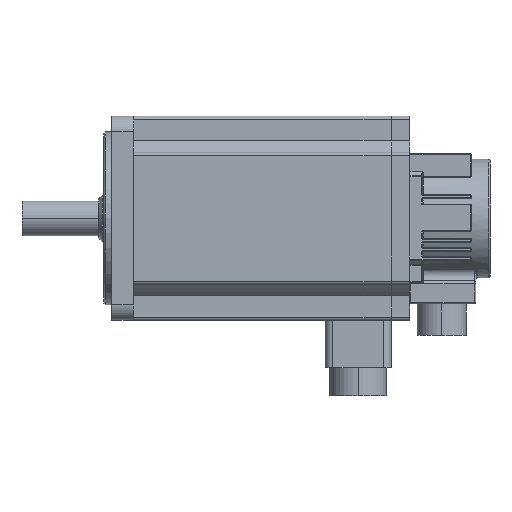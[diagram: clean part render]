
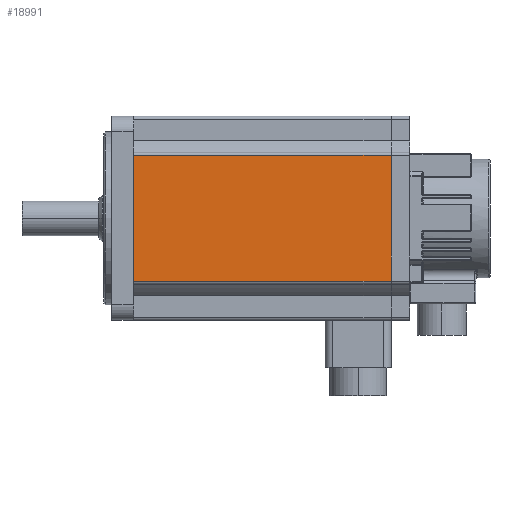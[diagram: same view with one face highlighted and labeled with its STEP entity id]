
A CAD part, left-side view. The second image highlights one B-rep face of the part: STEP entity #18991.
In plain terms, the highlighted planar face has unit normal (-1, 0, 0) as drawn and (0, 0, 1) by its records, which use the part's own axes.
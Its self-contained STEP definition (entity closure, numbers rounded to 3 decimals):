
#604 = CARTESIAN_POINT ( 'NONE',  ( -40., 176., 65. ) ) ;
#1282 = EDGE_CURVE ( 'NONE', #7822, #20956, #21002, .T. ) ;
#1657 = CARTESIAN_POINT ( 'NONE',  ( -40., 176., 65. ) ) ;
#1883 = VERTEX_POINT ( 'NONE', #2233 ) ;
#2009 = DIRECTION ( 'NONE',  ( 0., -1., 0. ) ) ;
#2134 = CARTESIAN_POINT ( 'NONE',  ( 40., 176., 65. ) ) ;
#2205 = EDGE_LOOP ( 'NONE', ( #12621, #22320, #12281, #20350 ) ) ;
#2233 = CARTESIAN_POINT ( 'NONE',  ( 40., 12., 65. ) ) ;
#3858 = VECTOR ( 'NONE', #10271, 1000. ) ;
#4540 = VERTEX_POINT ( 'NONE', #27641 ) ;
#5509 = EDGE_CURVE ( 'NONE', #7822, #4540, #7853, .T. ) ;
#6015 = CARTESIAN_POINT ( 'NONE',  ( -40., 12., 65. ) ) ;
#6960 = DIRECTION ( 'NONE',  ( 0., 0., -1. ) ) ;
#7822 = VERTEX_POINT ( 'NONE', #15415 ) ;
#7853 = LINE ( 'NONE', #16627, #24447 ) ;
#9031 = EDGE_CURVE ( 'NONE', #4540, #1883, #17400, .T. ) ;
#10177 = VECTOR ( 'NONE', #19385, 1000. ) ;
#10271 = DIRECTION ( 'NONE',  ( 0., -1., 0. ) ) ;
#10752 = CARTESIAN_POINT ( 'NONE',  ( -40., 12., 65. ) ) ;
#12281 = ORIENTED_EDGE ( 'NONE', *, *, #5509, .F. ) ;
#12621 = ORIENTED_EDGE ( 'NONE', *, *, #24258, .T. ) ;
#14072 = DIRECTION ( 'NONE',  ( 1., 0., 0. ) ) ;
#14916 = VECTOR ( 'NONE', #2009, 1000. ) ;
#15161 = PLANE ( 'NONE',  #17915 ) ;
#15415 = CARTESIAN_POINT ( 'NONE',  ( -40., 176., 65. ) ) ;
#16627 = CARTESIAN_POINT ( 'NONE',  ( -40., 176., 65. ) ) ;
#17272 = LINE ( 'NONE', #10752, #10177 ) ;
#17400 = LINE ( 'NONE', #2134, #14916 ) ;
#17430 = FACE_OUTER_BOUND ( 'NONE', #2205, .T. ) ;
#17915 = AXIS2_PLACEMENT_3D ( 'NONE', #604, #6960, #23784 ) ;
#18991 = ADVANCED_FACE ( 'NONE', ( #17430 ), #15161, .F. ) ;
#19385 = DIRECTION ( 'NONE',  ( 1., 0., 0. ) ) ;
#20350 = ORIENTED_EDGE ( 'NONE', *, *, #1282, .T. ) ;
#20956 = VERTEX_POINT ( 'NONE', #6015 ) ;
#21002 = LINE ( 'NONE', #1657, #3858 ) ;
#22320 = ORIENTED_EDGE ( 'NONE', *, *, #9031, .F. ) ;
#23784 = DIRECTION ( 'NONE',  ( -1., 0., 0. ) ) ;
#24258 = EDGE_CURVE ( 'NONE', #20956, #1883, #17272, .T. ) ;
#24447 = VECTOR ( 'NONE', #14072, 1000. ) ;
#27641 = CARTESIAN_POINT ( 'NONE',  ( 40., 176., 65. ) ) ;
